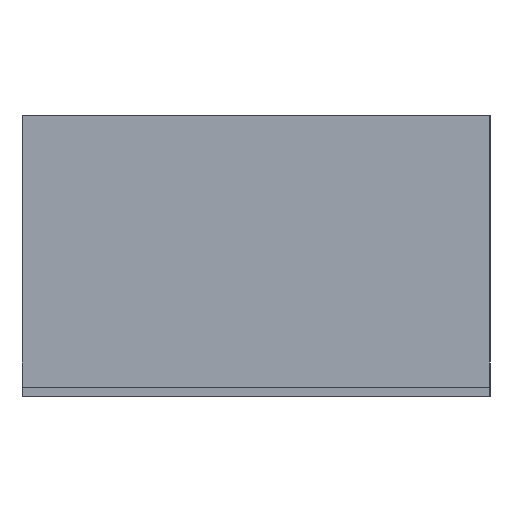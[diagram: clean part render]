
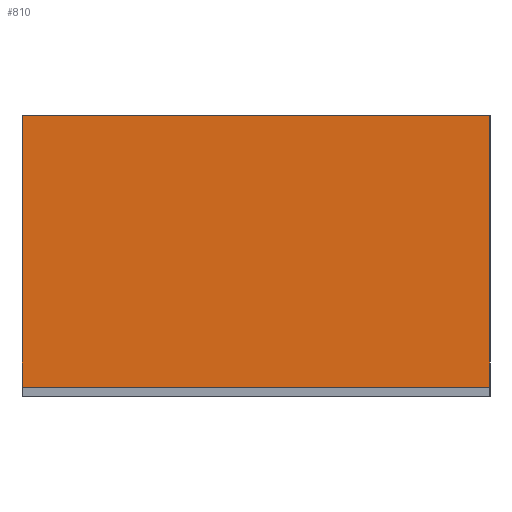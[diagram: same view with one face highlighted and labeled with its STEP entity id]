
A CAD part, left-side view. The second image highlights one B-rep face of the part: STEP entity #810.
In plain terms, the highlighted planar face has unit normal (-1, 0, 0).
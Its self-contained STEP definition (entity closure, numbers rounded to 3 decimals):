
#24 = VERTEX_POINT('',#25);
#25 = CARTESIAN_POINT('',(0.,0.,2.));
#44 = PLANE('',#45);
#45 = AXIS2_PLACEMENT_3D('',#46,#47,#48);
#46 = CARTESIAN_POINT('',(0.,100.,0.));
#47 = DIRECTION('',(1.,0.,0.));
#48 = DIRECTION('',(0.,-1.,0.));
#72 = PLANE('',#73);
#73 = AXIS2_PLACEMENT_3D('',#74,#75,#76);
#74 = CARTESIAN_POINT('',(0.,0.,2.));
#75 = DIRECTION('',(0.,1.,0.));
#76 = DIRECTION('',(1.,0.,0.));
#200 = VERTEX_POINT('',#201);
#201 = CARTESIAN_POINT('',(0.,100.,2.));
#227 = EDGE_CURVE('',#200,#24,#228,.T.);
#228 = SURFACE_CURVE('',#229,(#233,#240),.PCURVE_S1.);
#229 = LINE('',#230,#231);
#230 = CARTESIAN_POINT('',(0.,100.,2.));
#231 = VECTOR('',#232,1.);
#232 = DIRECTION('',(0.,-1.,0.));
#233 = PCURVE('',#44,#234);
#234 = DEFINITIONAL_REPRESENTATION('',(#235),#239);
#235 = LINE('',#236,#237);
#236 = CARTESIAN_POINT('',(0.,-2.));
#237 = VECTOR('',#238,1.);
#238 = DIRECTION('',(1.,0.));
#239 = ( GEOMETRIC_REPRESENTATION_CONTEXT(2) 
PARAMETRIC_REPRESENTATION_CONTEXT() REPRESENTATION_CONTEXT('2D SPACE',''
  ) );
#240 = PCURVE('',#241,#246);
#241 = PLANE('',#242);
#242 = AXIS2_PLACEMENT_3D('',#243,#244,#245);
#243 = CARTESIAN_POINT('',(0.,100.,2.));
#244 = DIRECTION('',(1.,0.,0.));
#245 = DIRECTION('',(0.,-1.,0.));
#246 = DEFINITIONAL_REPRESENTATION('',(#247),#251);
#247 = LINE('',#248,#249);
#248 = CARTESIAN_POINT('',(0.,0.));
#249 = VECTOR('',#250,1.);
#250 = DIRECTION('',(1.,0.));
#251 = ( GEOMETRIC_REPRESENTATION_CONTEXT(2) 
PARAMETRIC_REPRESENTATION_CONTEXT() REPRESENTATION_CONTEXT('2D SPACE',''
  ) );
#381 = EDGE_CURVE('',#24,#382,#384,.T.);
#382 = VERTEX_POINT('',#383);
#383 = CARTESIAN_POINT('',(0.,0.,60.));
#384 = SURFACE_CURVE('',#385,(#389,#396),.PCURVE_S1.);
#385 = LINE('',#386,#387);
#386 = CARTESIAN_POINT('',(0.,0.,2.));
#387 = VECTOR('',#388,1.);
#388 = DIRECTION('',(0.,0.,1.));
#389 = PCURVE('',#72,#390);
#390 = DEFINITIONAL_REPRESENTATION('',(#391),#395);
#391 = LINE('',#392,#393);
#392 = CARTESIAN_POINT('',(0.,0.));
#393 = VECTOR('',#394,1.);
#394 = DIRECTION('',(0.,-1.));
#395 = ( GEOMETRIC_REPRESENTATION_CONTEXT(2) 
PARAMETRIC_REPRESENTATION_CONTEXT() REPRESENTATION_CONTEXT('2D SPACE',''
  ) );
#396 = PCURVE('',#241,#397);
#397 = DEFINITIONAL_REPRESENTATION('',(#398),#402);
#398 = LINE('',#399,#400);
#399 = CARTESIAN_POINT('',(100.,0.));
#400 = VECTOR('',#401,1.);
#401 = DIRECTION('',(0.,-1.));
#402 = ( GEOMETRIC_REPRESENTATION_CONTEXT(2) 
PARAMETRIC_REPRESENTATION_CONTEXT() REPRESENTATION_CONTEXT('2D SPACE',''
  ) );
#420 = PLANE('',#421);
#421 = AXIS2_PLACEMENT_3D('',#422,#423,#424);
#422 = CARTESIAN_POINT('',(84.75,69.484,60.));
#423 = DIRECTION('',(0.,0.,1.));
#424 = DIRECTION('',(1.,0.,0.));
#797 = PLANE('',#798);
#798 = AXIS2_PLACEMENT_3D('',#799,#800,#801);
#799 = CARTESIAN_POINT('',(169.5,100.,2.));
#800 = DIRECTION('',(0.,-1.,0.));
#801 = DIRECTION('',(-1.,0.,0.));
#810 = ADVANCED_FACE('',(#811),#241,.F.);
#811 = FACE_BOUND('',#812,.F.);
#812 = EDGE_LOOP('',(#813,#836,#857,#858));
#813 = ORIENTED_EDGE('',*,*,#814,.T.);
#814 = EDGE_CURVE('',#200,#815,#817,.T.);
#815 = VERTEX_POINT('',#816);
#816 = CARTESIAN_POINT('',(0.,100.,60.));
#817 = SURFACE_CURVE('',#818,(#822,#829),.PCURVE_S1.);
#818 = LINE('',#819,#820);
#819 = CARTESIAN_POINT('',(0.,100.,2.));
#820 = VECTOR('',#821,1.);
#821 = DIRECTION('',(0.,0.,1.));
#822 = PCURVE('',#241,#823);
#823 = DEFINITIONAL_REPRESENTATION('',(#824),#828);
#824 = LINE('',#825,#826);
#825 = CARTESIAN_POINT('',(0.,0.));
#826 = VECTOR('',#827,1.);
#827 = DIRECTION('',(0.,-1.));
#828 = ( GEOMETRIC_REPRESENTATION_CONTEXT(2) 
PARAMETRIC_REPRESENTATION_CONTEXT() REPRESENTATION_CONTEXT('2D SPACE',''
  ) );
#829 = PCURVE('',#797,#830);
#830 = DEFINITIONAL_REPRESENTATION('',(#831),#835);
#831 = LINE('',#832,#833);
#832 = CARTESIAN_POINT('',(169.5,0.));
#833 = VECTOR('',#834,1.);
#834 = DIRECTION('',(0.,-1.));
#835 = ( GEOMETRIC_REPRESENTATION_CONTEXT(2) 
PARAMETRIC_REPRESENTATION_CONTEXT() REPRESENTATION_CONTEXT('2D SPACE',''
  ) );
#836 = ORIENTED_EDGE('',*,*,#837,.T.);
#837 = EDGE_CURVE('',#815,#382,#838,.T.);
#838 = SURFACE_CURVE('',#839,(#843,#850),.PCURVE_S1.);
#839 = LINE('',#840,#841);
#840 = CARTESIAN_POINT('',(0.,100.,60.));
#841 = VECTOR('',#842,1.);
#842 = DIRECTION('',(0.,-1.,0.));
#843 = PCURVE('',#241,#844);
#844 = DEFINITIONAL_REPRESENTATION('',(#845),#849);
#845 = LINE('',#846,#847);
#846 = CARTESIAN_POINT('',(0.,-58.));
#847 = VECTOR('',#848,1.);
#848 = DIRECTION('',(1.,0.));
#849 = ( GEOMETRIC_REPRESENTATION_CONTEXT(2) 
PARAMETRIC_REPRESENTATION_CONTEXT() REPRESENTATION_CONTEXT('2D SPACE',''
  ) );
#850 = PCURVE('',#420,#851);
#851 = DEFINITIONAL_REPRESENTATION('',(#852),#856);
#852 = LINE('',#853,#854);
#853 = CARTESIAN_POINT('',(-84.75,30.516));
#854 = VECTOR('',#855,1.);
#855 = DIRECTION('',(0.,-1.));
#856 = ( GEOMETRIC_REPRESENTATION_CONTEXT(2) 
PARAMETRIC_REPRESENTATION_CONTEXT() REPRESENTATION_CONTEXT('2D SPACE',''
  ) );
#857 = ORIENTED_EDGE('',*,*,#381,.F.);
#858 = ORIENTED_EDGE('',*,*,#227,.F.);
